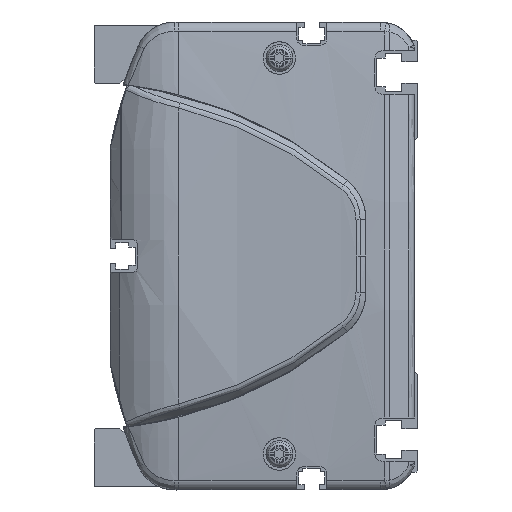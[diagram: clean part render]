
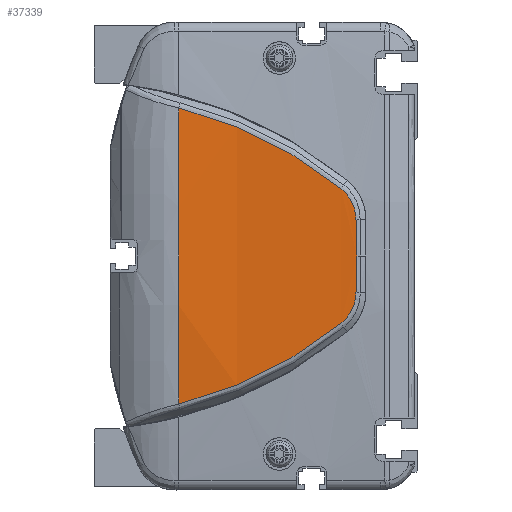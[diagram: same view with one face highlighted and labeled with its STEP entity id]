
A CAD part, left-side view. The second image highlights one B-rep face of the part: STEP entity #37339.
In plain terms, the highlighted cylindrical face has radius 500 mm (diameter 1000 mm), a partial arc.
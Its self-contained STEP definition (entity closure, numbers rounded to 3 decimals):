
#33575=CARTESIAN_POINT('',(486.,66.362,0.));
#33576=DIRECTION('',(0.,-1.,0.));
#33577=DIRECTION('',(-0.997,0.,0.082));
#33578=AXIS2_PLACEMENT_3D('',#33575,#33576,#33577);
#34458=CARTESIAN_POINT('',(-13.648,21.313,
-18.759));
#34459=CARTESIAN_POINT('',(-13.449,27.904,
-24.058));
#34460=CARTESIAN_POINT('',(-12.934,42.195,
-33.27));
#34461=CARTESIAN_POINT('',(-12.471,58.156,
-39.127));
#34462=CARTESIAN_POINT('',(-12.306,66.362,
-41.121));
#34464=CARTESIAN_POINT('',(-12.306,66.362,
41.121));
#34465=CARTESIAN_POINT('',(-12.471,58.156,
39.127));
#34466=CARTESIAN_POINT('',(-12.934,42.195,
33.27));
#34467=CARTESIAN_POINT('',(-13.449,27.904,
24.058));
#34468=CARTESIAN_POINT('',(-13.648,21.313,
18.759));
#34470=CARTESIAN_POINT('',(-13.648,21.313,
18.759));
#34471=CARTESIAN_POINT('',(-13.686,20.035,
17.736));
#34472=CARTESIAN_POINT('',(-13.779,17.936,
15.107));
#34473=CARTESIAN_POINT('',(-13.863,17.152,
11.827));
#34474=CARTESIAN_POINT('',(-13.896,17.124,
10.178));
#34476=CARTESIAN_POINT('',(-13.896,17.124,
10.178));
#34477=CARTESIAN_POINT('',(-13.92,17.107,
9.025));
#34478=CARTESIAN_POINT('',(-13.959,17.067,
6.734));
#34479=CARTESIAN_POINT('',(-13.993,16.98,
3.339));
#34480=CARTESIAN_POINT('',(-14.,16.898,
1.108));
#34481=CARTESIAN_POINT('',(-14.,16.849,
0.));
#34483=CARTESIAN_POINT('',(-14.,16.849,
0.));
#34484=CARTESIAN_POINT('',(-14.,16.898,
-1.108));
#34485=CARTESIAN_POINT('',(-13.993,16.98,
-3.34));
#34486=CARTESIAN_POINT('',(-13.959,17.067,
-6.733));
#34487=CARTESIAN_POINT('',(-13.92,17.107,
-9.027));
#34488=CARTESIAN_POINT('',(-13.896,17.124,
-10.18));
#34490=CARTESIAN_POINT('',(-13.896,17.124,
-10.18));
#34491=CARTESIAN_POINT('',(-13.863,17.152,
-11.828));
#34492=CARTESIAN_POINT('',(-13.779,17.937,
-15.109));
#34493=CARTESIAN_POINT('',(-13.686,20.035,
-17.736));
#34494=CARTESIAN_POINT('',(-13.648,21.313,
-18.759));
#35161=VERTEX_POINT('',#34458);
#35162=VERTEX_POINT('',#34462);
#35163=CARTESIAN_POINT('',(-12.306,66.362,
41.121));
#35164=VERTEX_POINT('',#35163);
#35165=VERTEX_POINT('',#34468);
#35166=VERTEX_POINT('',#34474);
#35167=VERTEX_POINT('',#34481);
#35168=VERTEX_POINT('',#34488);
#37320=CARTESIAN_POINT('',(486.,8.006,0.));
#37321=DIRECTION('',(0.,1.,0.));
#37322=DIRECTION('',(1.,0.,0.));
#37323=AXIS2_PLACEMENT_3D('',#37320,#37321,#37322);
#37324=CYLINDRICAL_SURFACE('',#37323,500.);
#37326=ORIENTED_EDGE('',*,*,#37325,.T.);
#37327=ORIENTED_EDGE('',*,*,#35963,.F.);
#37329=ORIENTED_EDGE('',*,*,#37328,.T.);
#37331=ORIENTED_EDGE('',*,*,#37330,.T.);
#37333=ORIENTED_EDGE('',*,*,#37332,.T.);
#37335=ORIENTED_EDGE('',*,*,#37334,.T.);
#37336=ORIENTED_EDGE('',*,*,#37310,.T.);
#37337=EDGE_LOOP('',(#37326,#37327,#37329,#37331,#37333,#37335,#37336));
#37338=FACE_OUTER_BOUND('',#37337,.F.);
#37339=ADVANCED_FACE('',(#37338),#37324,.T.);
#33579=CIRCLE('',#33578,500.);
#34463=B_SPLINE_CURVE_WITH_KNOTS('',3,(#34458,#34459,#34460,#34461,#34462),
.UNSPECIFIED.,.F.,.F.,(4,1,4),(0.,0.5,1.),.UNSPECIFIED.);
#34469=B_SPLINE_CURVE_WITH_KNOTS('',3,(#34464,#34465,#34466,#34467,#34468),
.UNSPECIFIED.,.F.,.F.,(4,1,4),(0.,0.5,1.),.UNSPECIFIED.);
#34475=B_SPLINE_CURVE_WITH_KNOTS('',3,(#34470,#34471,#34472,#34473,#34474),
.UNSPECIFIED.,.F.,.F.,(4,1,4),(0.,0.5,1.),.UNSPECIFIED.);
#34482=B_SPLINE_CURVE_WITH_KNOTS('',3,(#34476,#34477,#34478,#34479,#34480,
#34481),.UNSPECIFIED.,.F.,.F.,(4,1,1,4),(0.,0.333,
0.667,1.),.UNSPECIFIED.);
#34489=B_SPLINE_CURVE_WITH_KNOTS('',3,(#34483,#34484,#34485,#34486,#34487,
#34488),.UNSPECIFIED.,.F.,.F.,(4,1,1,4),(0.,0.333,
0.667,1.),.UNSPECIFIED.);
#34495=B_SPLINE_CURVE_WITH_KNOTS('',3,(#34490,#34491,#34492,#34493,#34494),
.UNSPECIFIED.,.F.,.F.,(4,1,4),(0.,0.5,1.),.UNSPECIFIED.);
#35963=EDGE_CURVE('',#35164,#35162,#33579,.T.);
#37310=EDGE_CURVE('',#35168,#35161,#34495,.T.);
#37325=EDGE_CURVE('',#35161,#35162,#34463,.T.);
#37328=EDGE_CURVE('',#35164,#35165,#34469,.T.);
#37330=EDGE_CURVE('',#35165,#35166,#34475,.T.);
#37332=EDGE_CURVE('',#35166,#35167,#34482,.T.);
#37334=EDGE_CURVE('',#35167,#35168,#34489,.T.);
